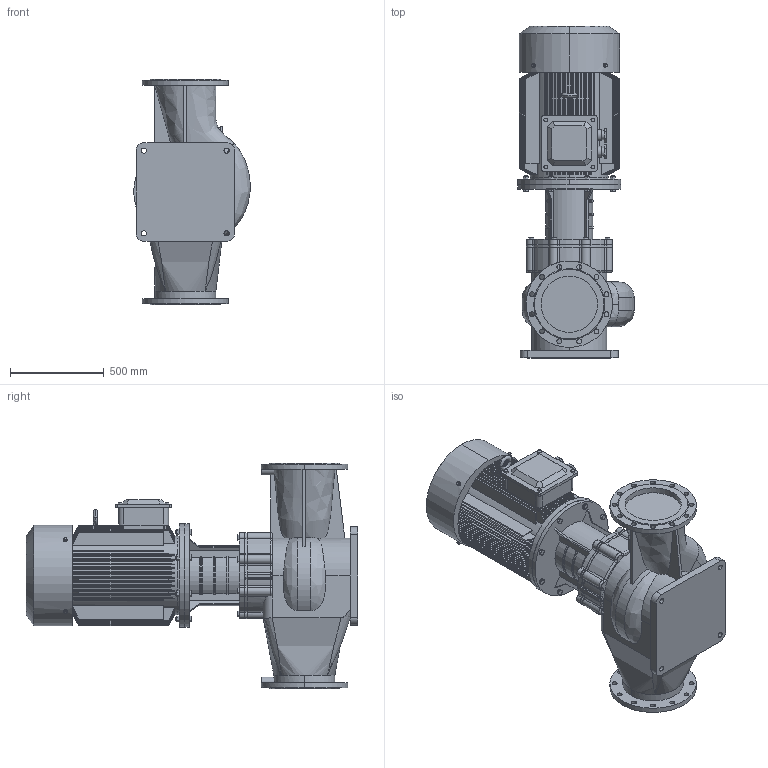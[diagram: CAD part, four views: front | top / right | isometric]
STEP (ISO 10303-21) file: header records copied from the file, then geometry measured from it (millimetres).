
FILE_DESCRIPTION(/* description */ (''),/* implementation_level */ '2;1');
FILE_NAME(/* name */ 'TD300-15-4安装尺寸图.stp',/* time_stamp */ '2026-09-07T17:16:32+08:00',/* author */ (''),/* organization */ (''),/* preprocessor_version */ 'ST-DEVELOPER v16.7',/* originating_system */ 'SIEMENS PLM Software NX 1847',/* authorisation */ '');
FILE_SCHEMA (('AP203_CONFIGURATION_CONTROLLED_3D_DESIGN_OF_MECHANICAL_PARTS_AND_ASSEMBLIES_MIM_LF { 1 0 10303 403 2 1 2}'));
Products named in the file (1): Admi55F8EAC4z5zc
Bounding box: 621.41 x 1767 x 1200 mm (x, y, z)
Volume: 381817014.1 mm3; surface area: 10689854.5 mm2
Topology: 1 solids, 2 shells, 1785 faces, 4351 edges, 2664 vertices
Faces by surface type: plane 643, cone 505, cylinder 504, torus 81, bspline 28, sphere 24
Full cylindrical faces by diameter (mm): 15.682 x8, 17.623 x16, 22.49 x8, 25.34 x8, 300 x1, 550 x1
Entity records: 59711 total; most frequent: CARTESIAN_POINT 18867, ORIENTED_EDGE 8518, DIRECTION 8445, EDGE_CURVE 4259, AXIS2_PLACEMENT_3D 3447, VERTEX_POINT 2647, EDGE_LOOP 2030, ADVANCED_FACE 1785
